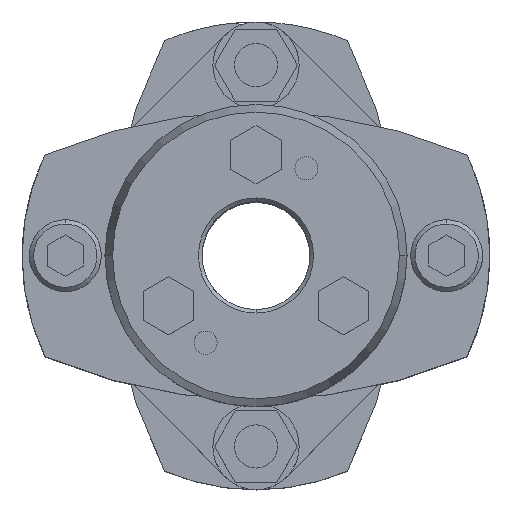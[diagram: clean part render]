
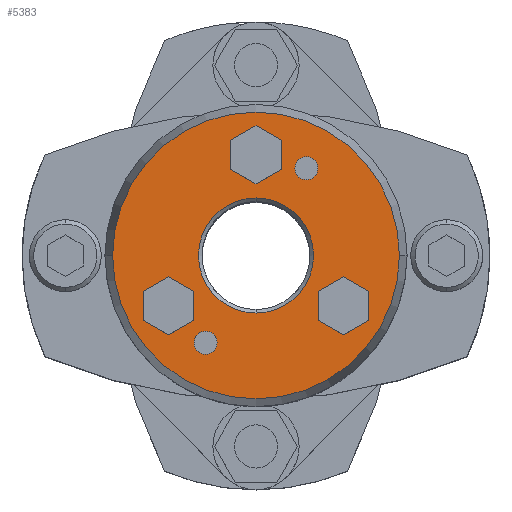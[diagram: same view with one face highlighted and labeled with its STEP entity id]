
A CAD part, top view. The second image highlights one B-rep face of the part: STEP entity #5383.
In plain terms, the highlighted planar face has unit normal (0, 0, 1).
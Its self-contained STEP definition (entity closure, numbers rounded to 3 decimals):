
#1783=CARTESIAN_POINT('',(-19.928,0.,40.0));
#1784=VERTEX_POINT('',#1783);
#1791=CARTESIAN_POINT('',(19.928,0.,40.0));
#1792=VERTEX_POINT('',#1791);
#1793=CARTESIAN_POINT('',(0.,0.,40.0));
#1794=DIRECTION('',(0.0,0.0,-1.0));
#1795=DIRECTION('',(-1.0,0.0,0.0));
#1796=AXIS2_PLACEMENT_3D('',#1793,#1794,#1795);
#1797=CIRCLE('',#1796,19.928);
#1798=EDGE_CURVE('',#1784,#1792,#1797,.T.);
#1893=CARTESIAN_POINT('',(0.,8.,40.0));
#1894=VERTEX_POINT('',#1893);
#1910=CARTESIAN_POINT('',(0.,-8.,40.0));
#1911=VERTEX_POINT('',#1910);
#1918=CARTESIAN_POINT('',(0.,0.,40.0));
#1919=DIRECTION('',(0.0,0.0,1.0));
#1920=DIRECTION('',(0.0,1.0,0.0));
#1921=AXIS2_PLACEMENT_3D('',#1918,#1919,#1920);
#1922=CIRCLE('',#1921,8.0);
#1923=EDGE_CURVE('',#1911,#1894,#1922,.T.);
#2041=CARTESIAN_POINT('',(7.,13.724,40.0));
#2042=VERTEX_POINT('',#2041);
#2058=CARTESIAN_POINT('',(7.,10.524,40.0));
#2059=VERTEX_POINT('',#2058);
#2066=CARTESIAN_POINT('',(7.,12.124,40.0));
#2067=DIRECTION('',(0.0,0.0,-1.0));
#2068=DIRECTION('',(0.0,1.0,0.0));
#2069=AXIS2_PLACEMENT_3D('',#2066,#2067,#2068);
#2070=CIRCLE('',#2069,1.6);
#2071=EDGE_CURVE('',#2042,#2059,#2070,.T.);
#2083=CARTESIAN_POINT('',(-7.,-10.524,40.0));
#2084=VERTEX_POINT('',#2083);
#2100=CARTESIAN_POINT('',(-7.,-13.724,40.0));
#2101=VERTEX_POINT('',#2100);
#2108=CARTESIAN_POINT('',(-7.,-12.124,40.0));
#2109=DIRECTION('',(0.0,0.0,-1.0));
#2110=DIRECTION('',(0.0,1.0,0.0));
#2111=AXIS2_PLACEMENT_3D('',#2108,#2109,#2110);
#2112=CIRCLE('',#2111,1.6);
#2113=EDGE_CURVE('',#2084,#2101,#2112,.T.);
#4586=CARTESIAN_POINT('',(-7.,-12.124,40.0));
#4587=DIRECTION('',(0.0,0.0,-1.0));
#4588=DIRECTION('',(0.0,1.0,0.0));
#4589=AXIS2_PLACEMENT_3D('',#4586,#4587,#4588);
#4590=CIRCLE('',#4589,1.6);
#4591=EDGE_CURVE('',#2101,#2084,#4590,.T.);
#4620=CARTESIAN_POINT('',(7.,12.124,40.0));
#4621=DIRECTION('',(0.0,0.0,-1.0));
#4622=DIRECTION('',(0.0,1.0,0.0));
#4623=AXIS2_PLACEMENT_3D('',#4620,#4621,#4622);
#4624=CIRCLE('',#4623,1.6);
#4625=EDGE_CURVE('',#2059,#2042,#4624,.T.);
#4663=CARTESIAN_POINT('',(0.,18.041,40.0));
#4664=VERTEX_POINT('',#4663);
#4671=CARTESIAN_POINT('',(-3.5,16.021,40.0));
#4672=VERTEX_POINT('',#4671);
#4673=CARTESIAN_POINT('',(-3.5,16.021,40.0));
#4674=DIRECTION('',(0.866,0.5,0.0));
#4675=VECTOR('',#4674,4.041);
#4676=LINE('',#4673,#4675);
#4677=EDGE_CURVE('',#4672,#4664,#4676,.T.);
#4701=CARTESIAN_POINT('',(3.5,16.021,40.0));
#4702=VERTEX_POINT('',#4701);
#4709=CARTESIAN_POINT('',(0.,18.041,40.0));
#4710=DIRECTION('',(0.866,-0.5,0.0));
#4711=VECTOR('',#4710,4.041);
#4712=LINE('',#4709,#4711);
#4713=EDGE_CURVE('',#4664,#4702,#4712,.T.);
#4732=CARTESIAN_POINT('',(3.5,11.979,40.0));
#4733=VERTEX_POINT('',#4732);
#4740=CARTESIAN_POINT('',(3.5,16.021,40.0));
#4741=DIRECTION('',(0.0,-1.0,0.0));
#4742=VECTOR('',#4741,4.041);
#4743=LINE('',#4740,#4742);
#4744=EDGE_CURVE('',#4702,#4733,#4743,.T.);
#4763=CARTESIAN_POINT('',(0.,9.959,40.0));
#4764=VERTEX_POINT('',#4763);
#4771=CARTESIAN_POINT('',(3.5,11.979,40.0));
#4772=DIRECTION('',(-0.866,-0.5,0.0));
#4773=VECTOR('',#4772,4.041);
#4774=LINE('',#4771,#4773);
#4775=EDGE_CURVE('',#4733,#4764,#4774,.T.);
#4794=CARTESIAN_POINT('',(-3.5,11.979,40.0));
#4795=VERTEX_POINT('',#4794);
#4802=CARTESIAN_POINT('',(0.,9.959,40.0));
#4803=DIRECTION('',(-0.866,0.5,0.0));
#4804=VECTOR('',#4803,4.041);
#4805=LINE('',#4802,#4804);
#4806=EDGE_CURVE('',#4764,#4795,#4805,.T.);
#4824=CARTESIAN_POINT('',(-3.5,11.979,40.0));
#4825=DIRECTION('',(0.0,1.0,0.0));
#4826=VECTOR('',#4825,4.041);
#4827=LINE('',#4824,#4826);
#4828=EDGE_CURVE('',#4795,#4672,#4827,.T.);
#4863=CARTESIAN_POINT('',(-12.124,-2.959,40.0));
#4864=VERTEX_POINT('',#4863);
#4871=CARTESIAN_POINT('',(-15.624,-4.979,40.0));
#4872=VERTEX_POINT('',#4871);
#4873=CARTESIAN_POINT('',(-15.624,-4.979,40.0));
#4874=DIRECTION('',(0.866,0.5,0.0));
#4875=VECTOR('',#4874,4.041);
#4876=LINE('',#4873,#4875);
#4877=EDGE_CURVE('',#4872,#4864,#4876,.T.);
#4901=CARTESIAN_POINT('',(-8.624,-4.979,40.0));
#4902=VERTEX_POINT('',#4901);
#4909=CARTESIAN_POINT('',(-12.124,-2.959,40.0));
#4910=DIRECTION('',(0.866,-0.5,0.0));
#4911=VECTOR('',#4910,4.041);
#4912=LINE('',#4909,#4911);
#4913=EDGE_CURVE('',#4864,#4902,#4912,.T.);
#4932=CARTESIAN_POINT('',(-8.624,-9.021,40.0));
#4933=VERTEX_POINT('',#4932);
#4940=CARTESIAN_POINT('',(-8.624,-4.979,40.0));
#4941=DIRECTION('',(0.0,-1.0,0.0));
#4942=VECTOR('',#4941,4.041);
#4943=LINE('',#4940,#4942);
#4944=EDGE_CURVE('',#4902,#4933,#4943,.T.);
#4963=CARTESIAN_POINT('',(-12.124,-11.041,40.0));
#4964=VERTEX_POINT('',#4963);
#4971=CARTESIAN_POINT('',(-8.624,-9.021,40.0));
#4972=DIRECTION('',(-0.866,-0.5,0.0));
#4973=VECTOR('',#4972,4.041);
#4974=LINE('',#4971,#4973);
#4975=EDGE_CURVE('',#4933,#4964,#4974,.T.);
#4994=CARTESIAN_POINT('',(-15.624,-9.021,40.0));
#4995=VERTEX_POINT('',#4994);
#5002=CARTESIAN_POINT('',(-12.124,-11.041,40.0));
#5003=DIRECTION('',(-0.866,0.5,0.0));
#5004=VECTOR('',#5003,4.041);
#5005=LINE('',#5002,#5004);
#5006=EDGE_CURVE('',#4964,#4995,#5005,.T.);
#5024=CARTESIAN_POINT('',(-15.624,-9.021,40.0));
#5025=DIRECTION('',(0.0,1.0,0.0));
#5026=VECTOR('',#5025,4.041);
#5027=LINE('',#5024,#5026);
#5028=EDGE_CURVE('',#4995,#4872,#5027,.T.);
#5063=CARTESIAN_POINT('',(12.124,-2.959,40.0));
#5064=VERTEX_POINT('',#5063);
#5071=CARTESIAN_POINT('',(8.624,-4.979,40.0));
#5072=VERTEX_POINT('',#5071);
#5073=CARTESIAN_POINT('',(8.624,-4.979,40.0));
#5074=DIRECTION('',(0.866,0.5,0.0));
#5075=VECTOR('',#5074,4.041);
#5076=LINE('',#5073,#5075);
#5077=EDGE_CURVE('',#5072,#5064,#5076,.T.);
#5101=CARTESIAN_POINT('',(15.624,-4.979,40.0));
#5102=VERTEX_POINT('',#5101);
#5109=CARTESIAN_POINT('',(12.124,-2.959,40.0));
#5110=DIRECTION('',(0.866,-0.5,0.0));
#5111=VECTOR('',#5110,4.041);
#5112=LINE('',#5109,#5111);
#5113=EDGE_CURVE('',#5064,#5102,#5112,.T.);
#5132=CARTESIAN_POINT('',(15.624,-9.021,40.0));
#5133=VERTEX_POINT('',#5132);
#5140=CARTESIAN_POINT('',(15.624,-4.979,40.0));
#5141=DIRECTION('',(0.0,-1.0,0.0));
#5142=VECTOR('',#5141,4.041);
#5143=LINE('',#5140,#5142);
#5144=EDGE_CURVE('',#5102,#5133,#5143,.T.);
#5163=CARTESIAN_POINT('',(12.124,-11.041,40.0));
#5164=VERTEX_POINT('',#5163);
#5171=CARTESIAN_POINT('',(15.624,-9.021,40.0));
#5172=DIRECTION('',(-0.866,-0.5,0.0));
#5173=VECTOR('',#5172,4.041);
#5174=LINE('',#5171,#5173);
#5175=EDGE_CURVE('',#5133,#5164,#5174,.T.);
#5194=CARTESIAN_POINT('',(8.624,-9.021,40.0));
#5195=VERTEX_POINT('',#5194);
#5202=CARTESIAN_POINT('',(12.124,-11.041,40.0));
#5203=DIRECTION('',(-0.866,0.5,0.0));
#5204=VECTOR('',#5203,4.041);
#5205=LINE('',#5202,#5204);
#5206=EDGE_CURVE('',#5164,#5195,#5205,.T.);
#5224=CARTESIAN_POINT('',(8.624,-9.021,40.0));
#5225=DIRECTION('',(0.0,1.0,0.0));
#5226=VECTOR('',#5225,4.041);
#5227=LINE('',#5224,#5226);
#5228=EDGE_CURVE('',#5195,#5072,#5227,.T.);
#5320=CARTESIAN_POINT('',(0.,0.,40.0));
#5321=DIRECTION('',(0.0,0.0,1.0));
#5322=DIRECTION('',(0.0,1.0,0.0));
#5323=AXIS2_PLACEMENT_3D('',#5320,#5321,#5322);
#5324=CIRCLE('',#5323,8.0);
#5325=EDGE_CURVE('',#1894,#1911,#5324,.T.);
#5332=CARTESIAN_POINT('',(-9.964,0.,40.0));
#5333=DIRECTION('',(0.0,0.0,1.0));
#5334=DIRECTION('',(0.0,1.0,0.0));
#5335=AXIS2_PLACEMENT_3D('',#5332,#5333,#5334);
#5336=PLANE('',#5335);
#5337=ORIENTED_EDGE('',*,*,#1798,.F.);
#5338=CARTESIAN_POINT('',(0.,0.,40.0));
#5339=DIRECTION('',(0.0,0.0,-1.0));
#5340=DIRECTION('',(-1.0,0.0,0.0));
#5341=AXIS2_PLACEMENT_3D('',#5338,#5339,#5340);
#5342=CIRCLE('',#5341,19.928);
#5343=EDGE_CURVE('',#1792,#1784,#5342,.T.);
#5344=ORIENTED_EDGE('',*,*,#5343,.F.);
#5345=EDGE_LOOP('',(#5337,#5344));
#5346=FACE_OUTER_BOUND('',#5345,.T.);
#5347=ORIENTED_EDGE('',*,*,#2113,.T.);
#5348=ORIENTED_EDGE('',*,*,#4591,.T.);
#5349=EDGE_LOOP('',(#5347,#5348));
#5350=FACE_BOUND('',#5349,.T.);
#5351=ORIENTED_EDGE('',*,*,#2071,.T.);
#5352=ORIENTED_EDGE('',*,*,#4625,.T.);
#5353=EDGE_LOOP('',(#5351,#5352));
#5354=FACE_BOUND('',#5353,.T.);
#5355=ORIENTED_EDGE('',*,*,#4677,.T.);
#5356=ORIENTED_EDGE('',*,*,#4713,.T.);
#5357=ORIENTED_EDGE('',*,*,#4744,.T.);
#5358=ORIENTED_EDGE('',*,*,#4775,.T.);
#5359=ORIENTED_EDGE('',*,*,#4806,.T.);
#5360=ORIENTED_EDGE('',*,*,#4828,.T.);
#5361=EDGE_LOOP('',(#5355,#5356,#5357,#5358,#5359,#5360));
#5362=FACE_BOUND('',#5361,.T.);
#5363=ORIENTED_EDGE('',*,*,#4877,.T.);
#5364=ORIENTED_EDGE('',*,*,#4913,.T.);
#5365=ORIENTED_EDGE('',*,*,#4944,.T.);
#5366=ORIENTED_EDGE('',*,*,#4975,.T.);
#5367=ORIENTED_EDGE('',*,*,#5006,.T.);
#5368=ORIENTED_EDGE('',*,*,#5028,.T.);
#5369=EDGE_LOOP('',(#5363,#5364,#5365,#5366,#5367,#5368));
#5370=FACE_BOUND('',#5369,.T.);
#5371=ORIENTED_EDGE('',*,*,#5077,.T.);
#5372=ORIENTED_EDGE('',*,*,#5113,.T.);
#5373=ORIENTED_EDGE('',*,*,#5144,.T.);
#5374=ORIENTED_EDGE('',*,*,#5175,.T.);
#5375=ORIENTED_EDGE('',*,*,#5206,.T.);
#5376=ORIENTED_EDGE('',*,*,#5228,.T.);
#5377=EDGE_LOOP('',(#5371,#5372,#5373,#5374,#5375,#5376));
#5378=FACE_BOUND('',#5377,.T.);
#5379=ORIENTED_EDGE('',*,*,#1923,.F.);
#5380=ORIENTED_EDGE('',*,*,#5325,.F.);
#5381=EDGE_LOOP('',(#5379,#5380));
#5382=FACE_BOUND('',#5381,.T.);
#5383=ADVANCED_FACE('',(#5346,#5350,#5354,#5362,#5370,#5378,#5382),#5336,.T.);
